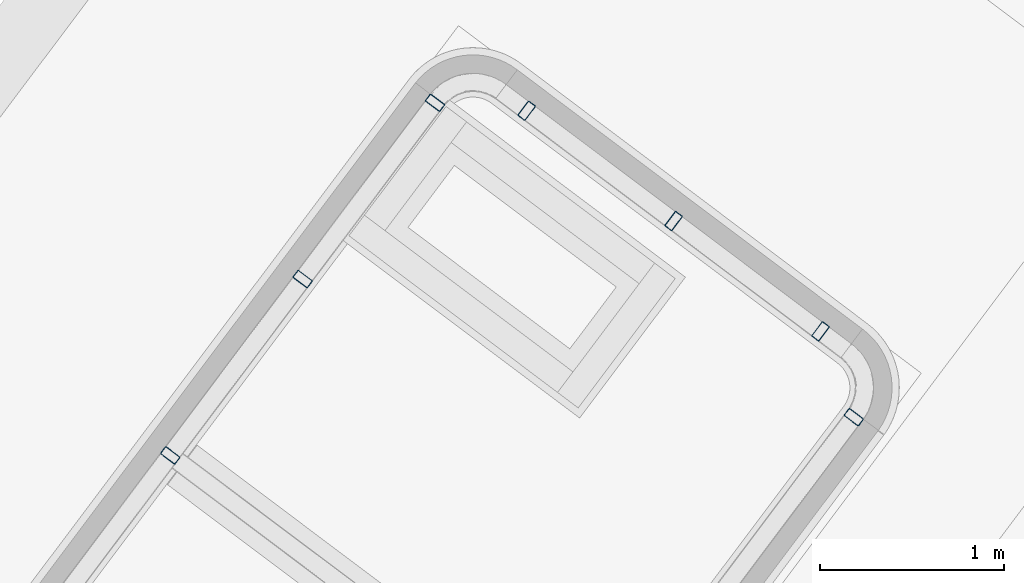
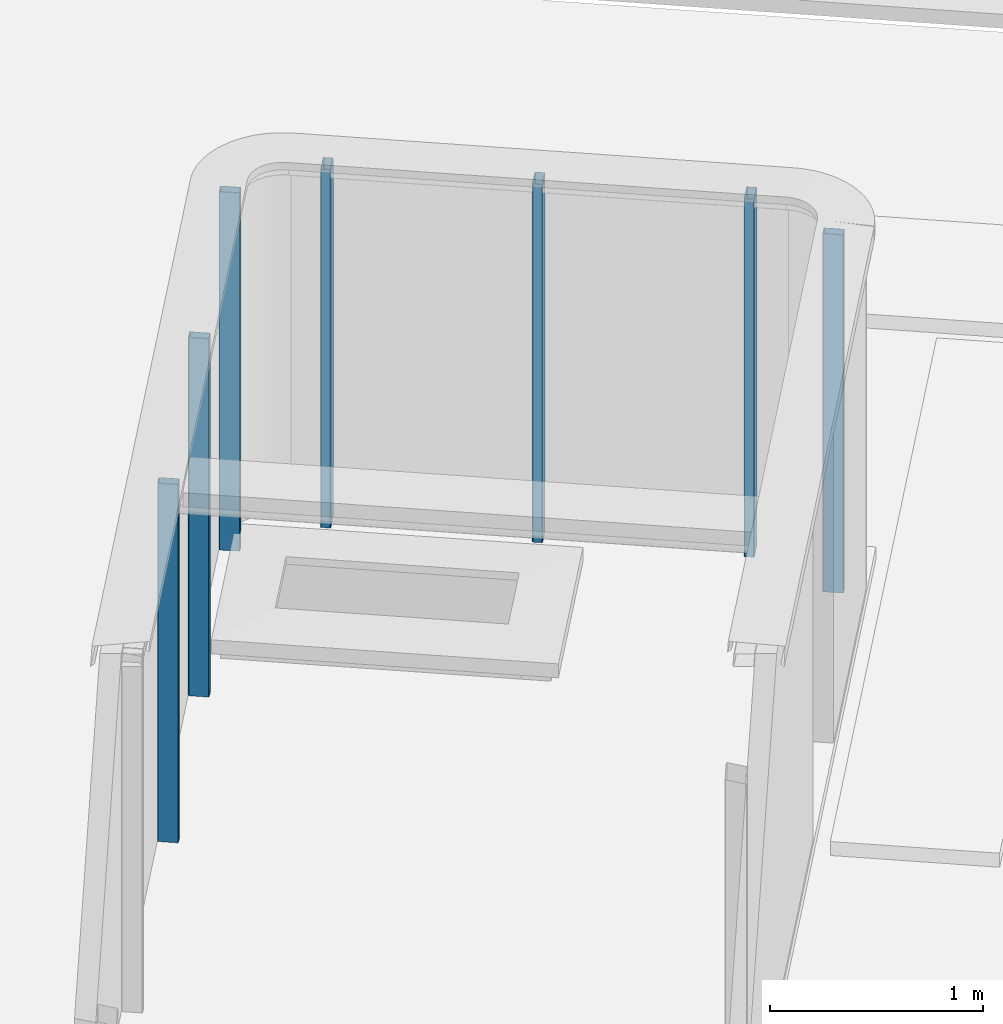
# One storey, part 13 of 28: 7 columns.
"""IFC2X3 building model written with IfcOpenShell, lengths in metres."""

import ifcopenshell
import ifcopenshell.guid

model = None  # the IFC model being written
_history = None  # IfcOwnerHistory: only IFC2X3 demands one
_inside = {}  # id of a spatial element -> (the spatial element, [elements in it])
_under = {}  # id of a project, library or spatial element -> (it, [spatial elements below it])
_declared = {}  # id of a project -> (the project, [libraries it declares])
_typed = {}  # id of a type object -> (the type object, [elements of that type])
_made_of = {}  # id of a material, layer set ... -> (it, [elements and type objects made of it])


def new_model(schema):
    """Start an empty IFC model of exactly this schema.

    Asked for "IFC4X3", IfcOpenShell would pick the latest addendum, in which some entities
    have other attributes; the version numbers below select the first issue.
    IFC2X3 requires an IfcOwnerHistory on every rooted entity: one is made here for all.
    """
    global model, _history
    if schema == "IFC4X3":
        model = ifcopenshell.file(schema_version=(4, 3, 0, 0))
    else:
        model = ifcopenshell.file(schema=schema)
    _inside.clear()
    _under.clear()
    _declared.clear()
    _typed.clear()
    _made_of.clear()
    _history = None
    if model.schema == "IFC2X3":
        org = make("IfcOrganization", Name="unknown")
        user = make(
            "IfcPersonAndOrganization",
            ThePerson=make("IfcPerson", FamilyName="unknown"),
            TheOrganization=org,
        )
        app = make(
            "IfcApplication",
            ApplicationDeveloper=org,
            Version="unknown",
            ApplicationFullName="unknown",
            ApplicationIdentifier="unknown",
        )
        _history = make(
            "IfcOwnerHistory",
            OwningUser=user,
            OwningApplication=app,
            ChangeAction="ADDED",
            CreationDate=0,
        )
    return model


def make(cls, **values):
    """One entity of the class cls with the attributes given. An attribute that is None is left unset."""
    return model.create_entity(
        cls, **{name: value for name, value in values.items() if value is not None}
    )


def entity(cls, *values):
    """Any entity or typed value of the class cls, its attributes in the order of the schema. None: left unset."""
    e = model.create_entity(cls)
    for i, value in enumerate(values):
        if value is not None:
            e[i] = value
    return e


def rooted(cls, **values):
    """An entity with a GlobalId (a new one), such as an element, a storey or a relation."""
    return make(cls, GlobalId=ifcopenshell.guid.new(), OwnerHistory=_history, **values)


def si_unit(unit_type, name, prefix=None):
    """IfcSIUnit, for example si_unit("LENGTHUNIT", "METRE", prefix="MILLI")."""
    return make("IfcSIUnit", UnitType=unit_type, Prefix=prefix, Name=name)


def converted_unit(unit_type, name, factor, base, dimensions=None, offset=None):
    """IfcConversionBasedUnit, such as the inch: factor (a typed value) times the base unit."""
    return make(
        "IfcConversionBasedUnit"
        if offset is None
        else "IfcConversionBasedUnitWithOffset",
        ConversionOffset=offset,
        Dimensions=None
        if dimensions is None
        else entity("IfcDimensionalExponents", *dimensions),
        UnitType=unit_type,
        Name=name,
        ConversionFactor=make(
            "IfcMeasureWithUnit", ValueComponent=factor, UnitComponent=base
        ),
    )


def derived_unit(unit_type, elements):
    """IfcDerivedUnit: a product of units, each with its exponent."""
    return make(
        "IfcDerivedUnit",
        Elements=[
            make("IfcDerivedUnitElement", Unit=unit, Exponent=power)
            for unit, power in elements
        ],
        UnitType=unit_type,
    )


def assignment(units):
    """IfcUnitAssignment: the units of a project."""
    return None if units is None else make("IfcUnitAssignment", Units=units)


def point(xyz):
    """IfcCartesianPoint."""
    return None if xyz is None else make("IfcCartesianPoint", Coordinates=xyz)


def direction(xyz):
    """IfcDirection."""
    return None if xyz is None else make("IfcDirection", DirectionRatios=xyz)


def frame(location, z_axis=None, x_axis=None):
    """IfcAxis2Placement3D, a coordinate frame: its origin and axes. An axis left out is left unset."""
    return make(
        "IfcAxis2Placement3D",
        Location=point(location),
        Axis=direction(z_axis),
        RefDirection=direction(x_axis),
    )


def frame_2d(location, x_axis=None):
    """IfcAxis2Placement2D, a coordinate frame in the plane: its origin and x axis."""
    return make(
        "IfcAxis2Placement2D", Location=point(location), RefDirection=direction(x_axis)
    )


def origin():
    """The frame at (0, 0, 0) with its axes left unset."""
    return frame((0.0, 0.0, 0.0))


def place(relative_to, where):
    """IfcLocalPlacement: puts the frame where relative to a parent placement (None: the world)."""
    return make(
        "IfcLocalPlacement", PlacementRelTo=relative_to, RelativePlacement=where
    )


def context(
    kind, dimensions, precision=None, world=None, true_north=None, identifier=None
):
    """IfcGeometricRepresentationContext, for example the 3D "Model" context."""
    return make(
        "IfcGeometricRepresentationContext",
        ContextIdentifier=identifier,
        ContextType=kind,
        CoordinateSpaceDimension=dimensions,
        Precision=precision,
        WorldCoordinateSystem=world,
        TrueNorth=true_north,
    )


def subcontext(parent, identifier, kind, view, scale=None):
    """IfcGeometricRepresentationSubContext, for example "Body" below "Model"."""
    return make(
        "IfcGeometricRepresentationSubContext",
        ContextIdentifier=identifier,
        ContextType=kind,
        ParentContext=parent,
        TargetScale=scale,
        TargetView=view,
    )


def project(units=None, contexts=None):
    """IfcProject with its units and contexts."""
    return rooted(
        "IfcProject",
        Name="project",
        RepresentationContexts=contexts,
        UnitsInContext=assignment(units),
    )


def spatial(cls, under=None, at=None, **own):
    """A site, building, storey or space (cls), placed at a placement, below another one or the project."""
    s = rooted(cls, ObjectPlacement=at, **own)
    if under is not None:
        _under.setdefault(under.id(), (under, []))[1].append(s)
    return s


def polyline(points):
    """IfcPolyline through the points."""
    return make("IfcPolyline", Points=[point(p) for p in points])


def circle_curve(where, radius):
    """IfcCircle in the frame where."""
    return make("IfcCircle", Position=where, Radius=radius)


def parameter(value):
    """IfcParameterValue: where a trimmed curve begins or ends, as a parameter of its basis curve."""
    return model.create_entity("IfcParameterValue", value)


def trimmed(basis, trim1, trim2, sense, master):
    """IfcTrimmedCurve: the piece of a basis curve between two trims."""
    return make(
        "IfcTrimmedCurve",
        BasisCurve=basis,
        Trim1=trim1,
        Trim2=trim2,
        SenseAgreement=sense,
        MasterRepresentation=master,
    )


def segment(curve, same_sense, transition):
    """IfcCompositeCurveSegment."""
    return make(
        "IfcCompositeCurveSegment",
        Transition=transition,
        SameSense=same_sense,
        ParentCurve=curve,
    )


def composite_curve(segments, self_intersect=None):
    """IfcCompositeCurve: segments joined end to end."""
    return make("IfcCompositeCurve", Segments=segments, SelfIntersect=self_intersect)


def outline(outer, holes=None, kind="AREA"):
    """IfcArbitraryClosedProfileDef: a profile drawn as a closed curve; with holes, ...WithVoids."""
    if holes is None:
        return make("IfcArbitraryClosedProfileDef", ProfileType=kind, OuterCurve=outer)
    return make(
        "IfcArbitraryProfileDefWithVoids",
        ProfileType=kind,
        OuterCurve=outer,
        InnerCurves=holes,
    )


def extrude(swept, where, along, depth):
    """IfcExtrudedAreaSolid: the profile swept, set in the frame where, extruded along a direction by depth."""
    return make(
        "IfcExtrudedAreaSolid",
        SweptArea=swept,
        Position=where,
        ExtrudedDirection=direction(along),
        Depth=depth,
    )


def shape(context_of_items, identifier, shape_type, items):
    """IfcShapeRepresentation: the items that make up one representation, for example the "Body"."""
    return make(
        "IfcShapeRepresentation",
        ContextOfItems=context_of_items,
        RepresentationIdentifier=identifier,
        RepresentationType=shape_type,
        Items=items,
    )


def source(mapping_origin, context_of_items, identifier, shape_type, items):
    """IfcRepresentationMap: a shape defined once, which mapped items show again and again."""
    return make(
        "IfcRepresentationMap",
        MappingOrigin=mapping_origin,
        MappedRepresentation=shape(context_of_items, identifier, shape_type, items),
    )


def transform(
    local_origin,
    x_axis=None,
    y_axis=None,
    z_axis=None,
    scale=None,
    scale2=None,
    scale3=None,
    uniform=True,
):
    """IfcCartesianTransformationOperator3D, or its non-uniform kind. x_axis, y_axis, z_axis: its Axis1, 2, 3."""
    if uniform:
        return make(
            "IfcCartesianTransformationOperator3D",
            Axis1=direction(x_axis),
            Axis2=direction(y_axis),
            LocalOrigin=point(local_origin),
            Scale=scale,
            Axis3=direction(z_axis),
        )
    return make(
        "IfcCartesianTransformationOperator3DnonUniform",
        Axis1=direction(x_axis),
        Axis2=direction(y_axis),
        LocalOrigin=point(local_origin),
        Scale=scale,
        Axis3=direction(z_axis),
        Scale2=scale2,
        Scale3=scale3,
    )


def mapped(mapping_source, mapping_target):
    """IfcMappedItem: shows the shape of a source again, moved by a transform."""
    return make(
        "IfcMappedItem", MappingSource=mapping_source, MappingTarget=mapping_target
    )


def material(Name=None, Category=None):
    """IfcMaterial."""
    return make("IfcMaterial", Name=Name, Category=Category)


def made_of(thing, what):
    """Note that an element or type object is made of a material, layer set ...; save() writes the relation."""
    if what is not None:
        _made_of.setdefault(what.id(), (what, []))[1].append(thing)
    return thing


def type_object(cls, material=None, **own):
    """A type object (cls), such as IfcWallType, which elements share."""
    return made_of(rooted(cls, **own), material)


def type_shapes(of_type, sources):
    """Give a type object the sources (RepresentationMaps) that its elements show as mapped items."""
    of_type.RepresentationMaps = sources


def element(
    cls,
    number,
    at=None,
    inside=None,
    cuts=None,
    type_object=None,
    material=None,
    context=None,
    identifier="Body",
    shape_type=None,
    held_by="IfcProductDefinitionShape",
    body=None,
    shapes=None,
    **own,
):
    """One element of the class cls, such as IfcWall. Its Tag is "e" and its number.

    at: its placement. inside: the storey or other place that contains it. cuts: it is an
    opening in that element (IfcRelVoidsElement). A single representation is given by context,
    identifier, shape_type and body (its items); several are given by shapes. held_by: the class
    of the entity that holds the representations. save() writes the other relations.
    """
    e = rooted(cls, Tag="e%d" % number, ObjectPlacement=at, **own)
    if body is not None:
        shapes = [shape(context, identifier, shape_type, body)]
    if shapes is not None:
        e.Representation = make(held_by, Representations=shapes)
    if inside is not None:
        _inside.setdefault(inside.id(), (inside, []))[1].append(e)
    if cuts is not None:
        rooted(
            "IfcRelVoidsElement", RelatingBuildingElement=cuts, RelatedOpeningElement=e
        )
    if type_object is not None:
        _typed.setdefault(type_object.id(), (type_object, []))[1].append(e)
    return made_of(e, material)


def aggregate(whole, parts):
    """IfcRelAggregates: a whole, such as a stair, and the parts it consists of."""
    return rooted("IfcRelAggregates", RelatingObject=whole, RelatedObjects=parts)


def save(model, path):
    """Write the relations noted so far, then the file.

    IfcRelAggregates (storeys below a building ...), IfcRelContainedInSpatialStructure (elements
    in a storey), IfcRelDefinesByType, IfcRelAssociatesMaterial and IfcRelDeclares: one each for
    every whole, place, type object, material and project.
    """
    for whole, parts in _under.values():
        aggregate(whole, parts)
    for where, things in _inside.values():
        rooted(
            "IfcRelContainedInSpatialStructure",
            RelatedElements=things,
            RelatingStructure=where,
        )
    for kind, things in _typed.values():
        rooted("IfcRelDefinesByType", RelatedObjects=things, RelatingType=kind)
    for what, things in _made_of.values():
        rooted("IfcRelAssociatesMaterial", RelatedObjects=things, RelatingMaterial=what)
    for by, libraries in _declared.values():
        rooted("IfcRelDeclares", RelatingContext=by, RelatedDefinitions=libraries)
    model.write(path)


model = new_model("IFC2X3")

# Units and contexts
model_context = context("Model", 3, precision=1e-05, world=origin(), true_north=direction((6.123031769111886e-17, 1.0)))
body_context = subcontext(model_context, "Body", "Model", "MODEL_VIEW")
ifc_project = project(units=[si_unit("LENGTHUNIT", "METRE"), si_unit("AREAUNIT", "SQUARE_METRE"), si_unit("VOLUMEUNIT", "CUBIC_METRE"), converted_unit("PLANEANGLEUNIT", "DEGREE", entity("IfcRatioMeasure", 0.017453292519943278), si_unit("PLANEANGLEUNIT", "RADIAN"), dimensions=[0, 0, 0, 0, 0, 0, 0]), si_unit("MASSUNIT", "GRAM", prefix="KILO"), derived_unit("MASSDENSITYUNIT", [(si_unit("MASSUNIT", "GRAM", prefix="KILO"), 1), (si_unit("LENGTHUNIT", "METRE"), -3)]), derived_unit("IONCONCENTRATIONUNIT", [(si_unit("MASSUNIT", "GRAM", prefix="KILO"), 1), (si_unit("LENGTHUNIT", "METRE"), -3)]), derived_unit("MOMENTOFINERTIAUNIT", [(si_unit("LENGTHUNIT", "METRE"), 4)]), si_unit("TIMEUNIT", "SECOND"), si_unit("FREQUENCYUNIT", "HERTZ"), si_unit("THERMODYNAMICTEMPERATUREUNIT", "DEGREE_CELSIUS"), derived_unit("THERMALTRANSMITTANCEUNIT", [(si_unit("MASSUNIT", "GRAM", prefix="KILO"), 1), (si_unit("THERMODYNAMICTEMPERATUREUNIT", "KELVIN"), -1), (si_unit("TIMEUNIT", "SECOND"), -3)]), derived_unit("THERMALCONDUCTANCEUNIT", [(si_unit("MASSUNIT", "GRAM", prefix="KILO"), 1), (si_unit("THERMODYNAMICTEMPERATUREUNIT", "KELVIN"), -1), (si_unit("TIMEUNIT", "SECOND"), -3), (si_unit("LENGTHUNIT", "METRE"), 1)]), derived_unit("VOLUMETRICFLOWRATEUNIT", [(si_unit("LENGTHUNIT", "METRE"), 3), (si_unit("TIMEUNIT", "SECOND"), -1)]), derived_unit("MASSFLOWRATEUNIT", [(si_unit("MASSUNIT", "GRAM", prefix="KILO"), 1), (si_unit("TIMEUNIT", "SECOND"), -1)]), derived_unit("ROTATIONALFREQUENCYUNIT", [(si_unit("TIMEUNIT", "SECOND"), -1)]), si_unit("ELECTRICCURRENTUNIT", "AMPERE"), si_unit("ELECTRICVOLTAGEUNIT", "VOLT"), si_unit("POWERUNIT", "WATT"), si_unit("FORCEUNIT", "NEWTON", prefix="KILO"), si_unit("ILLUMINANCEUNIT", "LUX"), si_unit("LUMINOUSFLUXUNIT", "LUMEN"), si_unit("LUMINOUSINTENSITYUNIT", "CANDELA"), derived_unit("USERDEFINED", [(si_unit("MASSUNIT", "GRAM", prefix="KILO"), -1), (si_unit("LENGTHUNIT", "METRE"), -2), (si_unit("TIMEUNIT", "SECOND"), 3), (si_unit("LUMINOUSFLUXUNIT", "LUMEN"), 1)]), derived_unit("USERDEFINED", [(si_unit("MASSUNIT", "GRAM", prefix="KILO"), 1), (si_unit("TIMEUNIT", "SECOND"), -3), (si_unit("LENGTHUNIT", "METRE"), 3), (si_unit("ELECTRICCURRENTUNIT", "AMPERE"), -2)]), derived_unit("SOUNDPOWERUNIT", [(si_unit("MASSUNIT", "GRAM", prefix="KILO"), 1), (si_unit("TIMEUNIT", "SECOND"), -3), (si_unit("LENGTHUNIT", "METRE"), 2)]), derived_unit("SOUNDPRESSUREUNIT", [(si_unit("MASSUNIT", "GRAM", prefix="KILO"), 1), (si_unit("LENGTHUNIT", "METRE"), -1), (si_unit("TIMEUNIT", "SECOND"), -2)]), derived_unit("LINEARVELOCITYUNIT", [(si_unit("LENGTHUNIT", "METRE"), 1), (si_unit("TIMEUNIT", "SECOND"), -1)]), si_unit("PRESSUREUNIT", "PASCAL"), derived_unit("USERDEFINED", [(si_unit("MASSUNIT", "GRAM", prefix="KILO"), 1), (si_unit("LENGTHUNIT", "METRE"), -2), (si_unit("TIMEUNIT", "SECOND"), -2)]), derived_unit("LINEARFORCEUNIT", [(si_unit("MASSUNIT", "GRAM", prefix="KILO"), 1), (si_unit("TIMEUNIT", "SECOND"), -2)]), derived_unit("PLANARFORCEUNIT", [(si_unit("MASSUNIT", "GRAM", prefix="KILO"), 1), (si_unit("LENGTHUNIT", "METRE"), -1), (si_unit("TIMEUNIT", "SECOND"), -2)]), derived_unit("SPECIFICHEATCAPACITYUNIT", [(si_unit("THERMODYNAMICTEMPERATUREUNIT", "KELVIN"), -1), (si_unit("LENGTHUNIT", "METRE"), 2), (si_unit("TIMEUNIT", "SECOND"), -2)]), derived_unit("HEATINGVALUEUNIT", [(si_unit("LENGTHUNIT", "METRE"), 2), (si_unit("TIMEUNIT", "SECOND"), -2)]), derived_unit("VAPORPERMEABILITYUNIT", [(si_unit("LENGTHUNIT", "METRE"), -1), (si_unit("TIMEUNIT", "SECOND"), 1)]), derived_unit("DYNAMICVISCOSITYUNIT", [(si_unit("MASSUNIT", "GRAM", prefix="KILO"), 1), (si_unit("TIMEUNIT", "SECOND"), -1), (si_unit("LENGTHUNIT", "METRE"), -1)]), derived_unit("THERMALEXPANSIONCOEFFICIENTUNIT", [(si_unit("THERMODYNAMICTEMPERATUREUNIT", "KELVIN"), -1)]), derived_unit("MODULUSOFELASTICITYUNIT", [(si_unit("MASSUNIT", "GRAM", prefix="KILO"), 1), (si_unit("LENGTHUNIT", "METRE"), -1), (si_unit("TIMEUNIT", "SECOND"), -2)]), derived_unit("ISOTHERMALMOISTURECAPACITYUNIT", [(si_unit("LENGTHUNIT", "METRE"), 3), (si_unit("MASSUNIT", "GRAM", prefix="KILO"), -1)]), derived_unit("MOISTUREDIFFUSIVITYUNIT", [(si_unit("TIMEUNIT", "SECOND"), -1), (si_unit("LENGTHUNIT", "METRE"), 2)])], contexts=[model_context])

# Site, building, storey
site_placement = place(None, frame((0.0, 0.0, 235.0), z_axis=(0.0, 0.0, 1.0), x_axis=(-0.7996477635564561, 0.6004693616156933, 0.0)))
site = spatial("IfcSite", under=ifc_project, at=site_placement, Name="Default", CompositionType="ELEMENT")
building_placement = place(site_placement, origin())
building = spatial("IfcBuilding", under=site, at=building_placement, CompositionType="ELEMENT")
storey_placement = place(building_placement, frame((0.0, 0.0, 3.400000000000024)))
storey = spatial("IfcBuildingStorey", under=building, at=storey_placement, Name="PC- Coberta STR", CompositionType="ELEMENT", Elevation=3.400000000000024)

# Columns
ifc_material = material(Name="Metal - Acero - 345 MPa")
column_type = type_object("IfcColumnType", Name="STR- P- Acer- RHS- Rectangular- T1:100 x 50RHS", PredefinedType="COLUMN", material=ifc_material)
shared_shape = source(origin(), body_context, "Body", "SweptSolid", [
    extrude(outline(composite_curve([segment(polyline([(-0.01900000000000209, -0.04999999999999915), (0.019000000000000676, -0.04999999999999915)]), True, "CONTINUOUS"), segment(trimmed(circle_curve(frame_2d((0.019000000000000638, -0.04400000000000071), x_axis=(-1.0, 0.0)), 0.005999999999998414), [parameter(90.00000000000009)], [parameter(180.0000000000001)], True, "PARAMETER"), True, "CONTINUOUS"), segment(polyline([(0.024999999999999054, -0.044000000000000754), (0.02499999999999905, 0.044000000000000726)]), True, "CONTINUOUS"), segment(trimmed(circle_curve(frame_2d((0.018999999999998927, 0.044000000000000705), x_axis=(-1.0, 0.0)), 0.006000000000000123), [parameter(179.9999999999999)], [parameter(269.99999999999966)], True, "PARAMETER"), True, "CONTINUOUS"), segment(polyline([(0.018999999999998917, 0.05000000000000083), (-0.01899999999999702, 0.050000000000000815)]), True, "CONTINUOUS"), segment(trimmed(circle_curve(frame_2d((-0.018999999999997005, 0.043999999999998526), x_axis=(-1.0, 0.0)), 0.006000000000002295), [parameter(269.99999999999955)], [parameter(359.9999999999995)], True, "PARAMETER"), True, "CONTINUOUS"), segment(polyline([(-0.024999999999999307, 0.04399999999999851), (-0.024999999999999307, -0.04400000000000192)]), True, "CONTINUOUS"), segment(trimmed(circle_curve(frame_2d((-0.019000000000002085, -0.04400000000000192), x_axis=(-1.0, 0.0)), 0.005999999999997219), [parameter(359.9999999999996)], [parameter(89.99999999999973)], True, "PARAMETER"), True, "CONTINUOUS")], self_intersect=False), holes=[composite_curve([segment(trimmed(circle_curve(frame_2d((-0.019000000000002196, -0.044000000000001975), x_axis=(-1.0, 0.0)), 0.0029999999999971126), [parameter(0.0)], [parameter(90.00000000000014)], True, "PARAMETER"), False, "CONTINUOUS"), segment(polyline([(-0.021999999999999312, -0.044000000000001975), (-0.021999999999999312, 0.04400000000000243)]), True, "CONTINUOUS"), segment(trimmed(circle_curve(frame_2d((-0.019000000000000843, 0.04400000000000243), x_axis=(-1.0, 0.0)), 0.00299999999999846), [parameter(269.99999999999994)], [parameter(0.0)], True, "PARAMETER"), False, "CONTINUOUS"), segment(polyline([(-0.01900000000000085, 0.0470000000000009), (0.01899999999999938, 0.04700000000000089)]), True, "CONTINUOUS"), segment(trimmed(circle_curve(frame_2d((0.018999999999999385, 0.04399999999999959), x_axis=(-1.0, 0.0)), 0.0030000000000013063), [parameter(179.99999999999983)], [parameter(270.0)], True, "PARAMETER"), False, "CONTINUOUS"), segment(polyline([(0.022000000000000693, 0.04399999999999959), (0.022000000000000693, -0.04399999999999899)]), True, "CONTINUOUS"), segment(trimmed(circle_curve(frame_2d((0.019000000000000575, -0.043999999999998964), x_axis=(-1.0, 0.0)), 0.0030000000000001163), [parameter(90.00000000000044)], [parameter(180.0000000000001)], True, "PARAMETER"), False, "CONTINUOUS"), segment(polyline([(0.019000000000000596, -0.04699999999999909), (-0.019000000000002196, -0.04699999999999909)]), True, "CONTINUOUS")], self_intersect=False)]), frame((0.02658749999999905, 0.051587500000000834, 0.0), z_axis=(0.0, 0.0, 1.0), x_axis=(-1.0, 0.0, 0.0)), (0.0, 0.0, 1.0), 2.05),
])
type_shapes(column_type, [shared_shape])
for number, where, z_axis, x_axis, name in (
    (1, (72.50859795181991, -34.85360425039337, 0.4), (0.0, 0.0, 1.0), (0.0, -1.0, 0.0), "STR- P- Acer- RHS- Rectangular- T1:100 x 50RHS"),
    (2, (72.50859795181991, -36.053604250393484, 0.4), (0.0, 0.0, 1.0), (0.0, -1.0, 0.0), "STR- P- Acer- RHS- Rectangular- T1:100 x 50RHS"),
    (3, (72.50859795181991, -37.25360425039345, 0.4), (0.0, 0.0, 1.0), (0.0, -1.0, 0.0), "STR- P- Acer- RHS- Rectangular- T1:100 x 50RHS"),
    (4, (72.16177293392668, -37.4936042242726, 0.4), (0.0, 0.0, 1.0), (-1.0, 0.0, 0.0), "STR- P- Acer- RHS- Rectangular- T1:100 x 50RHS"),
    (5, (71.16177293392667, -37.4936042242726, 0.4), (0.0, 0.0, 1.0), (-1.0, 0.0, 0.0), "STR- P- Acer- RHS- Rectangular- T1:100 x 50RHS"),
    (6, (70.16177293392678, -37.49360422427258, 0.4), (0.0, 0.0, 1.0), (-1.0, 0.0, 0.0), "STR- P- Acer- RHS- Rectangular- T1:100 x 50RHS"),
    (7, (69.65859787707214, -37.25360425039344, 0.4), (0.0, 0.0, 1.0), (0.0, -1.0, 0.0), "STR- P- Acer- RHS- Rectangular- T1:100 x 50RHS"),
):
    element("IfcColumn", number, at=place(storey_placement, frame(where, z_axis=z_axis, x_axis=x_axis)), inside=storey, type_object=column_type, material=ifc_material, Name=name, ObjectType="STR- P- Acer- RHS- Rectangular- T1:100 x 50RHS", context=body_context, shape_type="MappedRepresentation", body=[
        mapped(shared_shape, transform((0.0, 0.0, 0.0), scale=1.0)),
    ])

save(model, "model.ifc")
